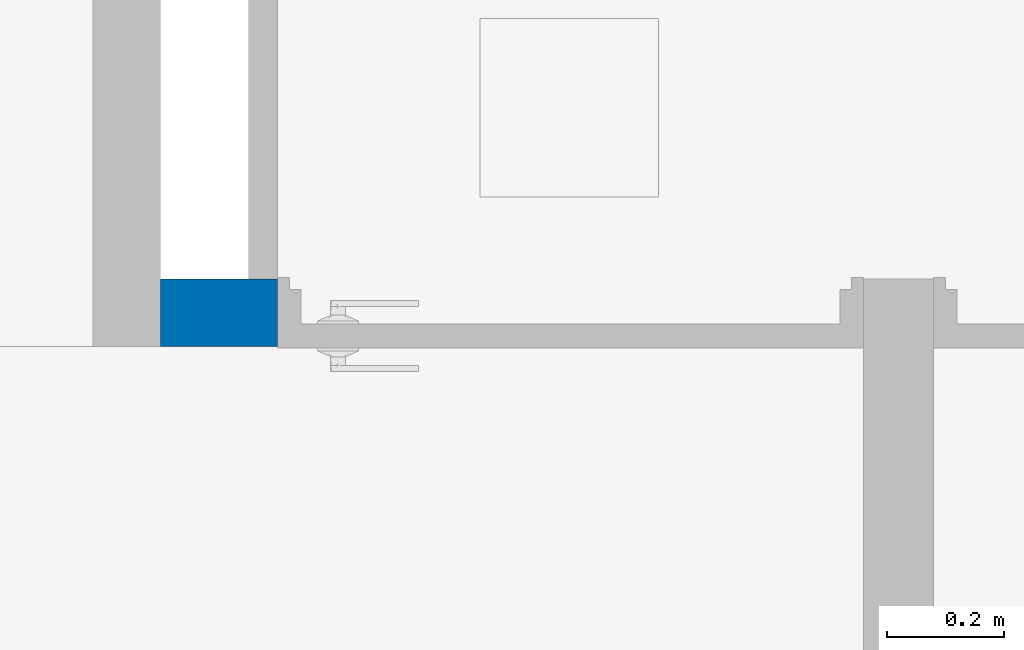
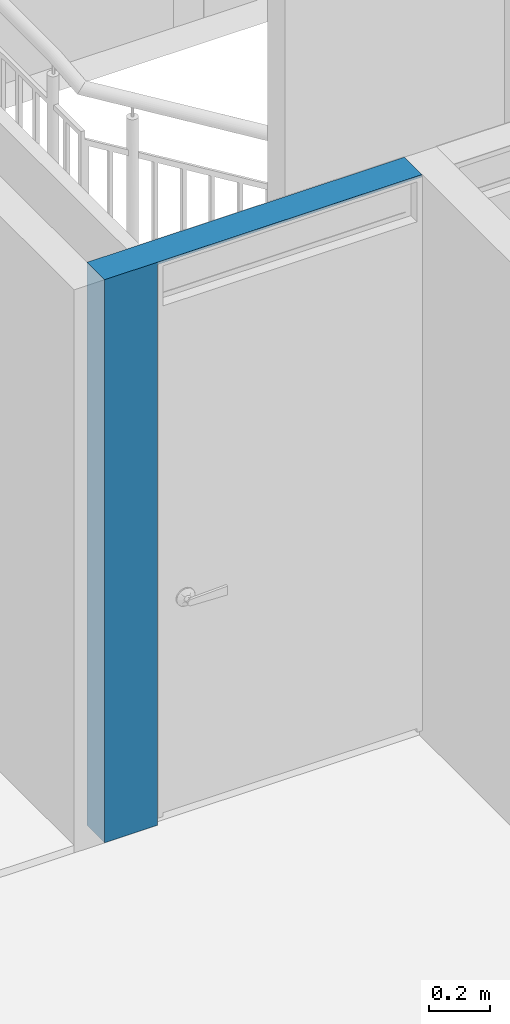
# One storey, part 29 of 47: 1 wall, 1 opening.
"""IFC4 building model written with IfcOpenShell, lengths in metres."""

from ifc_helpers import new_model, entity, si_unit, converted_unit, derived_unit, direction, frame, origin, place, context, subcontext, project, spatial, indexed_curve, outline, extrude, polygons, material, type_object, element, save


model = new_model("IFC4")

# Units and contexts
model_context = context("Model", 3, precision=1e-05, world=origin(), true_north=direction((6.123031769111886e-17, 1.0)))
body_context = subcontext(model_context, "Body", "Model", "MODEL_VIEW")
ifc_project = project(units=[si_unit("LENGTHUNIT", "METRE"), si_unit("AREAUNIT", "SQUARE_METRE"), si_unit("VOLUMEUNIT", "CUBIC_METRE"), converted_unit("PLANEANGLEUNIT", "DEGREE", entity("IfcRatioMeasure", 0.017453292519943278), si_unit("PLANEANGLEUNIT", "RADIAN"), dimensions=[0, 0, 0, 0, 0, 0, 0]), si_unit("MASSUNIT", "GRAM", prefix="KILO"), derived_unit("MASSDENSITYUNIT", [(si_unit("MASSUNIT", "GRAM", prefix="KILO"), 1), (si_unit("LENGTHUNIT", "METRE"), -3)]), derived_unit("IONCONCENTRATIONUNIT", [(si_unit("MASSUNIT", "GRAM", prefix="KILO"), 1), (si_unit("LENGTHUNIT", "METRE"), -3)]), derived_unit("MOMENTOFINERTIAUNIT", [(si_unit("LENGTHUNIT", "METRE"), 4)]), si_unit("TIMEUNIT", "SECOND"), si_unit("FREQUENCYUNIT", "HERTZ"), si_unit("THERMODYNAMICTEMPERATUREUNIT", "DEGREE_CELSIUS"), derived_unit("THERMALTRANSMITTANCEUNIT", [(si_unit("MASSUNIT", "GRAM", prefix="KILO"), 1), (si_unit("THERMODYNAMICTEMPERATUREUNIT", "KELVIN"), -1), (si_unit("TIMEUNIT", "SECOND"), -3)]), derived_unit("THERMALCONDUCTANCEUNIT", [(si_unit("MASSUNIT", "GRAM", prefix="KILO"), 1), (si_unit("THERMODYNAMICTEMPERATUREUNIT", "KELVIN"), -1), (si_unit("TIMEUNIT", "SECOND"), -3), (si_unit("LENGTHUNIT", "METRE"), 1)]), derived_unit("VOLUMETRICFLOWRATEUNIT", [(si_unit("LENGTHUNIT", "METRE"), 3), (si_unit("TIMEUNIT", "SECOND"), -1)]), derived_unit("MASSFLOWRATEUNIT", [(si_unit("MASSUNIT", "GRAM", prefix="KILO"), 1), (si_unit("TIMEUNIT", "SECOND"), -1)]), derived_unit("ROTATIONALFREQUENCYUNIT", [(si_unit("TIMEUNIT", "SECOND"), -1)]), si_unit("ELECTRICCURRENTUNIT", "AMPERE"), si_unit("ELECTRICVOLTAGEUNIT", "VOLT"), si_unit("POWERUNIT", "WATT"), si_unit("FORCEUNIT", "NEWTON", prefix="KILO"), si_unit("ILLUMINANCEUNIT", "LUX"), si_unit("LUMINOUSFLUXUNIT", "LUMEN"), si_unit("LUMINOUSINTENSITYUNIT", "CANDELA"), derived_unit("USERDEFINED", [(si_unit("MASSUNIT", "GRAM", prefix="KILO"), -1), (si_unit("LENGTHUNIT", "METRE"), -2), (si_unit("TIMEUNIT", "SECOND"), 3), (si_unit("LUMINOUSFLUXUNIT", "LUMEN"), 1)]), derived_unit("USERDEFINED", [(si_unit("MASSUNIT", "GRAM", prefix="KILO"), 1), (si_unit("TIMEUNIT", "SECOND"), -3), (si_unit("LENGTHUNIT", "METRE"), 3), (si_unit("ELECTRICCURRENTUNIT", "AMPERE"), -2)]), derived_unit("SOUNDPOWERUNIT", [(si_unit("MASSUNIT", "GRAM", prefix="KILO"), 1), (si_unit("TIMEUNIT", "SECOND"), -3), (si_unit("LENGTHUNIT", "METRE"), 2)]), derived_unit("SOUNDPRESSUREUNIT", [(si_unit("MASSUNIT", "GRAM", prefix="KILO"), 1), (si_unit("LENGTHUNIT", "METRE"), -1), (si_unit("TIMEUNIT", "SECOND"), -2)]), derived_unit("LINEARVELOCITYUNIT", [(si_unit("LENGTHUNIT", "METRE"), 1), (si_unit("TIMEUNIT", "SECOND"), -1)]), si_unit("PRESSUREUNIT", "PASCAL"), derived_unit("USERDEFINED", [(si_unit("MASSUNIT", "GRAM", prefix="KILO"), 1), (si_unit("LENGTHUNIT", "METRE"), -2), (si_unit("TIMEUNIT", "SECOND"), -2)]), derived_unit("LINEARFORCEUNIT", [(si_unit("MASSUNIT", "GRAM", prefix="KILO"), 1), (si_unit("TIMEUNIT", "SECOND"), -2)]), derived_unit("PLANARFORCEUNIT", [(si_unit("MASSUNIT", "GRAM", prefix="KILO"), 1), (si_unit("LENGTHUNIT", "METRE"), -1), (si_unit("TIMEUNIT", "SECOND"), -2)]), derived_unit("SPECIFICHEATCAPACITYUNIT", [(si_unit("THERMODYNAMICTEMPERATUREUNIT", "KELVIN"), -1), (si_unit("LENGTHUNIT", "METRE"), 2), (si_unit("TIMEUNIT", "SECOND"), -2)]), derived_unit("HEATINGVALUEUNIT", [(si_unit("LENGTHUNIT", "METRE"), 2), (si_unit("TIMEUNIT", "SECOND"), -2)]), derived_unit("VAPORPERMEABILITYUNIT", [(si_unit("LENGTHUNIT", "METRE"), -1), (si_unit("TIMEUNIT", "SECOND"), 1)]), derived_unit("DYNAMICVISCOSITYUNIT", [(si_unit("MASSUNIT", "GRAM", prefix="KILO"), 1), (si_unit("TIMEUNIT", "SECOND"), -1), (si_unit("LENGTHUNIT", "METRE"), -1)]), derived_unit("THERMALEXPANSIONCOEFFICIENTUNIT", [(si_unit("THERMODYNAMICTEMPERATUREUNIT", "KELVIN"), -1)]), derived_unit("MODULUSOFELASTICITYUNIT", [(si_unit("MASSUNIT", "GRAM", prefix="KILO"), 1), (si_unit("LENGTHUNIT", "METRE"), -1), (si_unit("TIMEUNIT", "SECOND"), -2)]), derived_unit("ISOTHERMALMOISTURECAPACITYUNIT", [(si_unit("LENGTHUNIT", "METRE"), 3), (si_unit("MASSUNIT", "GRAM", prefix="KILO"), -1)]), derived_unit("MOISTUREDIFFUSIVITYUNIT", [(si_unit("TIMEUNIT", "SECOND"), -1), (si_unit("LENGTHUNIT", "METRE"), 2)])], contexts=[model_context])

# Site, building, storey
site_placement = place(None, origin())
site = spatial("IfcSite", under=ifc_project, at=site_placement, Name="Default", CompositionType="ELEMENT")
building_placement = place(site_placement, origin())
building = spatial("IfcBuilding", under=site, at=building_placement, CompositionType="ELEMENT")
storey_placement = place(building_placement, frame((0.0, 0.0, 11.750000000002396)))
storey = spatial("IfcBuildingStorey", under=building, at=storey_placement, Name="Nivel 6", CompositionType="ELEMENT", Elevation=11.750000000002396)

# Wall, opening
ifc_material = material(Name="LADRILLO CLARO", Category="Materials")
wall_type = type_object("IfcWallType", Name="Basic Wall:B2010 - 0.115m - MI mampostería no estructural - Ladrillo", PredefinedType="STANDARD")
wall_placement = place(storey_placement, frame((8.062500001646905, -9.082499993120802, 0.0)))
wall = element("IfcWall", 1, at=wall_placement, inside=storey, type_object=wall_type, material=ifc_material, Name="Basic Wall:B2010 - 0.115m - MI mampostería no estructural - Ladrillo", ObjectType="Basic Wall:B2010 - 0.115m - MI mampostería no estructural - Ladrillo", PredefinedType="NOTDEFINED", context=body_context, shape_type="Tessellation", body=[
    polygons([(1.199999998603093, -0.057499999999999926, 2.2499999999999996), (6.133973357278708e-17, -0.057499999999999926, 2.2499999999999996), (6.133973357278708e-17, -0.057499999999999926, 0.0), (0.19999999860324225, -0.05750000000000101, 0.0), (0.19999999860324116, -0.05750000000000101, 2.23999999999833), (1.199999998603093, -0.057499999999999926, 2.23999999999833), (3.0462771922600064e-16, 0.057499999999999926, 2.2499999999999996), (0.14999999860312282, 0.057499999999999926, 2.2499999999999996), (0.1999999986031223, 0.057499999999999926, 2.2499999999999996), (1.1999999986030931, 0.057499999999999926, 2.2499999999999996), (1.1999999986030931, 0.057499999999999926, 2.23999999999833), (0.19999999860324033, 0.057499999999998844, 2.239999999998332), (0.19999999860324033, 0.057499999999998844, 0.0), (0.14999999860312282, 0.057499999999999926, 0.0), (3.0462771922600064e-16, 0.057499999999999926, 0.0)], [[[1, 2, 3, 4, 5, 6]], [[7, 8, 9, 10, 11, 12, 13, 14, 15]], [[3, 15, 14, 13, 4]], [[10, 1, 6, 11]], [[2, 1, 10, 9, 8, 7]], [[3, 2, 7, 15]], [[12, 5, 4, 13]], [[5, 12, 11, 6]]], closed=True),
])
opening_placement = place(wall_placement, frame((1.1999999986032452, 0.057499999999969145, 0.0)))
element("IfcOpeningElement", 2, at=opening_placement, cuts=wall, Name="C1030 - Puerta batiente - Madera + Metal:C1030 - 1.00 x 2.24 - Puerta batiente - Madera:1", PredefinedType="OPENING", context=body_context, shape_type="SweptSolid", body=[
    extrude(outline(indexed_curve([(0.0, 0.999999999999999), (0.0, -5.404556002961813e-30), (2.239999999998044, -5.404556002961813e-30), (2.2399999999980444, 0.999999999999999), (0.0, 0.999999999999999)], self_intersect=False)), frame((0.0, 0.0, 0.0), z_axis=(0.0, -1.0, 0.0), x_axis=(0.0, 0.0, 1.0)), (0.0, 0.0, 1.0), 0.115),
])

save(model, "model.ifc")
